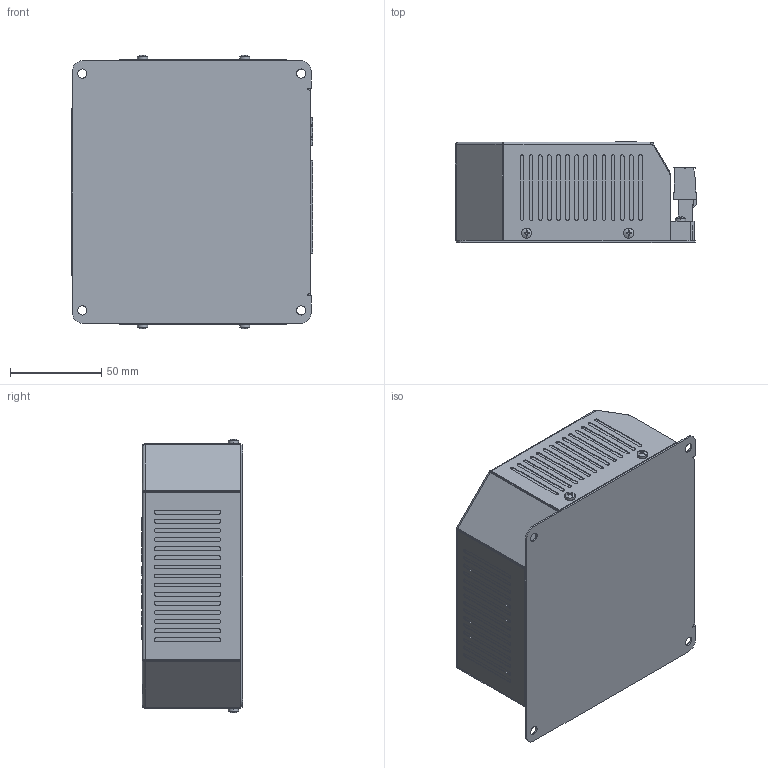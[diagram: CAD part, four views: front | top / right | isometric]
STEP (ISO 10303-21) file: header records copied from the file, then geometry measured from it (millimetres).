
FILE_DESCRIPTION (( 'STEP AP214' ), '1' );
FILE_NAME ('BACM2406 WZ.STEP', '2021-11-17T06:03:05', ( '微软用户' ), ( '微软中国' ), 'SwSTEP 2.0', 'SolidWorks 2018', '' );
FILE_SCHEMA (( 'AUTOMOTIVE_DESIGN' ));
Length unit declared in the file: millimetre
Products named in the file (1): BACM2406 WZ
Bounding box: 132.26 x 55.5 x 150.24 mm (x, y, z)
Volume: 924288.4 mm3; surface area: 83858.7 mm2
Topology: 5 solids, 7 shells, 2587 faces, 6638 edges, 4285 vertices
Faces by surface type: plane 1735, cylinder 642, cone 78, bspline 68, torus 52, sphere 12
Entity records: 109428 total; most frequent: CARTESIAN_POINT 18208, ORIENTED_EDGE 13276, DIRECTION 12925, EDGE_CURVE 6638, VECTOR 4703, LINE 4703, VERTEX_POINT 4285, AXIS2_PLACEMENT_3D 4111
